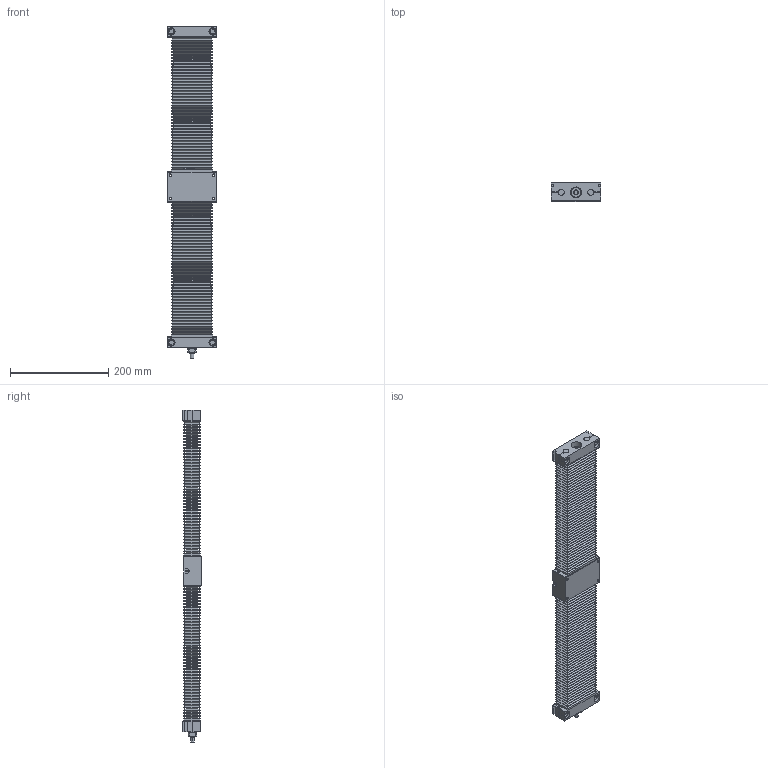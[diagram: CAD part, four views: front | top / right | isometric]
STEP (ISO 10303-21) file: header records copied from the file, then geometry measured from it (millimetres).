
FILE_DESCRIPTION (( 'STEP AP214' ), '1' );
FILE_NAME ('TKC1204B-350H0C-Ä£×é.step', '2025-10-10T09:44:24', ( '' ), ( '' ), 'SwSTEP 2.0', 'SolidWorks 2024', '' );
FILE_SCHEMA (( 'AUTOMOTIVE_DESIGN' ));
Length unit declared in the file: millimetre
Products named in the file (4): TKC1204B-350H0C-模组; TKC12-02; TKC12-350-03; TKC12-350-01
Assembly tree (4 placements, depth 2):
  TKC1204B-350H0C-模组
    TKC12-02
    TKC12-350-01
    TKC12-350-03  x2
Bounding box: 100 x 38 x 674.5 mm (x, y, z)
Volume: 1156239.4 mm3; surface area: 512224.1 mm2
Topology: 14 solids, 14 shells, 1866 faces, 4145 edges, 2355 vertices
Faces by surface type: plane 1381, cylinder 400, cone 46, torus 28, bspline 11
Entity records: 48014 total; most frequent: CARTESIAN_POINT 19022, ORIENTED_EDGE 5930, DIRECTION 5685, EDGE_CURVE 2965, LINE 2043, VECTOR 2043, AXIS2_PLACEMENT_3D 1821, VERTEX_POINT 1767
